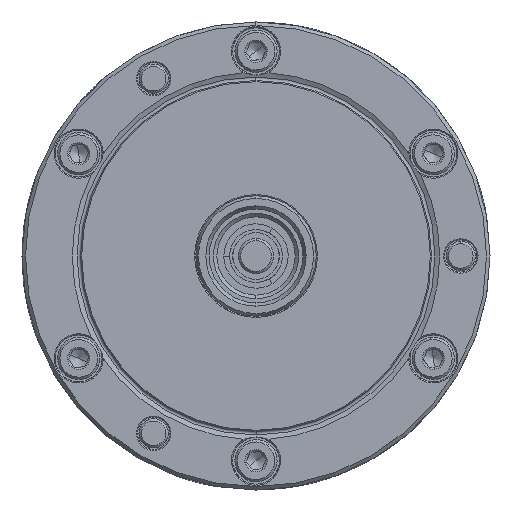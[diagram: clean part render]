
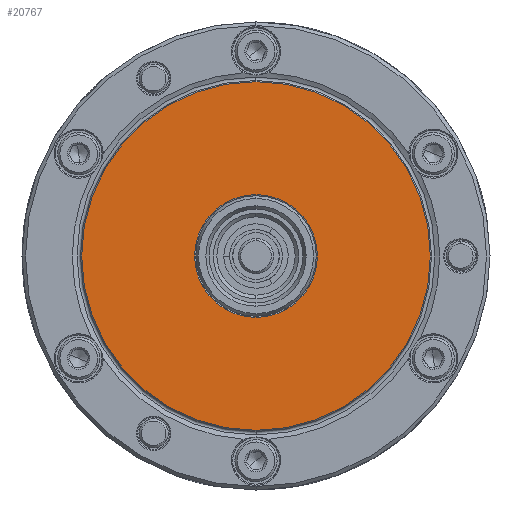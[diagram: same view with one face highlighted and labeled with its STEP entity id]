
A CAD part, left-side view. The second image highlights one B-rep face of the part: STEP entity #20767.
In plain terms, the highlighted planar face has unit normal (-1, 0, 0).
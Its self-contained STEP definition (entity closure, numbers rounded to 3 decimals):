
#612 = AXIS2_PLACEMENT_3D ( 'NONE', #20349, #43391, #36282 ) ;
#1380 = DIRECTION ( 'NONE',  ( 0., 0., -1. ) ) ;
#2269 = VERTEX_POINT ( 'NONE', #19653 ) ;
#3861 = ORIENTED_EDGE ( 'NONE', *, *, #21778, .T. ) ;
#5128 = FACE_OUTER_BOUND ( 'NONE', #15352, .T. ) ;
#8541 = VERTEX_POINT ( 'NONE', #45405 ) ;
#9100 = DIRECTION ( 'NONE',  ( 0., 0., -1. ) ) ;
#9351 = CARTESIAN_POINT ( 'NONE',  ( -57., 0., 0. ) ) ;
#9590 = DIRECTION ( 'NONE',  ( 1., 0., 0. ) ) ;
#10346 = CARTESIAN_POINT ( 'NONE',  ( -57., 0., 0. ) ) ;
#13161 = CARTESIAN_POINT ( 'NONE',  ( -57., 0., 10.5 ) ) ;
#13478 = AXIS2_PLACEMENT_3D ( 'NONE', #9351, #36457, #9100 ) ;
#13608 = DIRECTION ( 'NONE',  ( 1., 0., 0. ) ) ;
#15227 = EDGE_CURVE ( 'NONE', #2269, #8541, #49040, .T. ) ;
#15352 = EDGE_LOOP ( 'NONE', ( #34766, #25183 ) ) ;
#17079 = CARTESIAN_POINT ( 'NONE',  ( -57., 0., 0. ) ) ;
#17611 = AXIS2_PLACEMENT_3D ( 'NONE', #17079, #33060, #1380 ) ;
#19653 = CARTESIAN_POINT ( 'NONE',  ( -57., 0., -29.8 ) ) ;
#19840 = PLANE ( 'NONE',  #612 ) ;
#20349 = CARTESIAN_POINT ( 'NONE',  ( -57., -10.5, 0. ) ) ;
#20739 = CIRCLE ( 'NONE', #37682, 29.8 ) ;
#20767 = ADVANCED_FACE ( 'NONE', ( #5128, #42889 ), #19840, .F. ) ;
#21745 = AXIS2_PLACEMENT_3D ( 'NONE', #10346, #9590, #41239 ) ;
#21778 = EDGE_CURVE ( 'NONE', #47982, #32904, #31411, .T. ) ;
#22921 = EDGE_CURVE ( 'NONE', #32904, #47982, #41148, .T. ) ;
#25183 = ORIENTED_EDGE ( 'NONE', *, *, #33158, .F. ) ;
#31411 = CIRCLE ( 'NONE', #17611, 10.5 ) ;
#32885 = CARTESIAN_POINT ( 'NONE',  ( -57., 0., 0. ) ) ;
#32904 = VERTEX_POINT ( 'NONE', #42034 ) ;
#33060 = DIRECTION ( 'NONE',  ( 1., 0., 0. ) ) ;
#33158 = EDGE_CURVE ( 'NONE', #8541, #2269, #20739, .T. ) ;
#34766 = ORIENTED_EDGE ( 'NONE', *, *, #15227, .F. ) ;
#36282 = DIRECTION ( 'NONE',  ( 0., 0., -1. ) ) ;
#36457 = DIRECTION ( 'NONE',  ( 1., 0., 0. ) ) ;
#36928 = DIRECTION ( 'NONE',  ( 0., 0., -1. ) ) ;
#36961 = EDGE_LOOP ( 'NONE', ( #45215, #3861 ) ) ;
#37682 = AXIS2_PLACEMENT_3D ( 'NONE', #32885, #13608, #36928 ) ;
#41148 = CIRCLE ( 'NONE', #21745, 10.5 ) ;
#41239 = DIRECTION ( 'NONE',  ( 0., 0., -1. ) ) ;
#42034 = CARTESIAN_POINT ( 'NONE',  ( -57., 0., -10.5 ) ) ;
#42889 = FACE_BOUND ( 'NONE', #36961, .T. ) ;
#43391 = DIRECTION ( 'NONE',  ( 1., 0., 0. ) ) ;
#45215 = ORIENTED_EDGE ( 'NONE', *, *, #22921, .T. ) ;
#45405 = CARTESIAN_POINT ( 'NONE',  ( -57., 0., 29.8 ) ) ;
#47982 = VERTEX_POINT ( 'NONE', #13161 ) ;
#49040 = CIRCLE ( 'NONE', #13478, 29.8 ) ;
